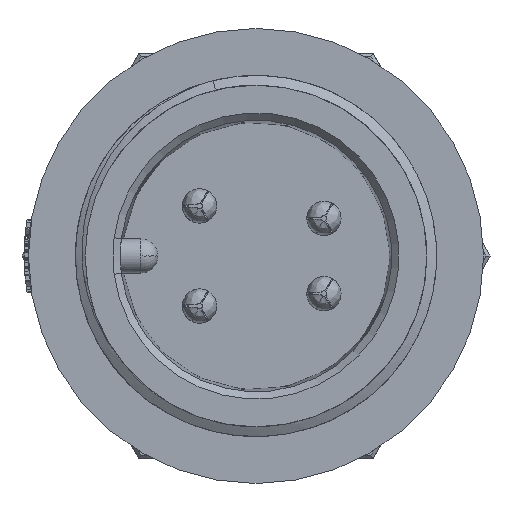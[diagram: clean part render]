
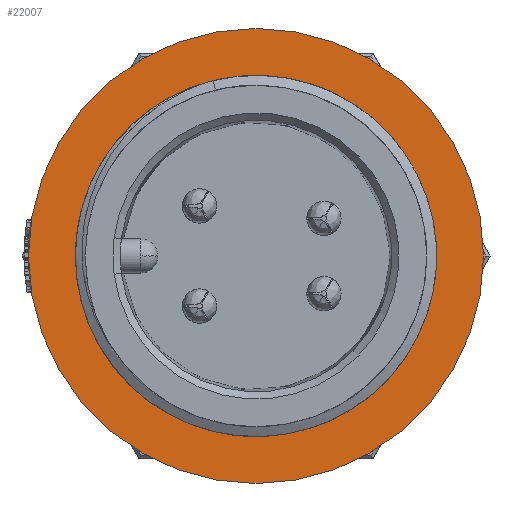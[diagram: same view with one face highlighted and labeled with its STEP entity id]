
A CAD part, left-side view. The second image highlights one B-rep face of the part: STEP entity #22007.
In plain terms, the highlighted planar face has unit normal (-1, 0, 0).
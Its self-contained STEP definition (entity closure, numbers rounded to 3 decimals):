
#713=CARTESIAN_POINT('',(0.,0.,0.));
#714=DIRECTION('',(1.,0.,0.));
#715=DIRECTION('',(0.,0.,-1.));
#716=AXIS2_PLACEMENT_3D('',#713,#714,#715);
#718=CARTESIAN_POINT('',(0.,0.,0.));
#719=DIRECTION('',(-1.,0.,0.));
#720=DIRECTION('',(0.,0.,-1.));
#721=AXIS2_PLACEMENT_3D('',#718,#719,#720);
#723=CARTESIAN_POINT('',(0.,3.011,12.338));
#724=CARTESIAN_POINT('',(0.,3.41,12.229));
#725=CARTESIAN_POINT('',(0.,4.194,11.973));
#726=CARTESIAN_POINT('',(0.,5.327,11.476));
#727=CARTESIAN_POINT('',(0.,6.403,10.872));
#728=CARTESIAN_POINT('',(0.,7.413,10.168));
#729=CARTESIAN_POINT('',(0.,8.348,9.369));
#730=CARTESIAN_POINT('',(0.,9.199,8.486));
#731=CARTESIAN_POINT('',(0.,9.957,7.525));
#732=CARTESIAN_POINT('',(0.,10.616,6.496));
#733=CARTESIAN_POINT('',(0.,11.171,5.41));
#734=CARTESIAN_POINT('',(0.,11.615,4.278));
#735=CARTESIAN_POINT('',(0.,11.945,3.109));
#736=CARTESIAN_POINT('',(0.,12.158,1.916));
#737=CARTESIAN_POINT('',(0.,12.253,0.711));
#738=CARTESIAN_POINT('',(0.,12.229,-0.495));
#739=CARTESIAN_POINT('',(0.,12.087,-1.69));
#740=CARTESIAN_POINT('',(0.,11.829,-2.863));
#741=CARTESIAN_POINT('',(0.,11.457,-4.003));
#742=CARTESIAN_POINT('',(0.,10.976,-5.097));
#743=CARTESIAN_POINT('',(0.,10.389,-6.137));
#744=CARTESIAN_POINT('',(0.,9.934,-6.786));
#745=CARTESIAN_POINT('',(0.,9.69,-7.099));
#747=CARTESIAN_POINT('',(0.,0.,0.));
#748=DIRECTION('',(1.,0.,0.));
#749=DIRECTION('',(0.,-0.591,-0.807));
#750=AXIS2_PLACEMENT_3D('',#747,#748,#749);
#752=CARTESIAN_POINT('',(0.,-7.094,-9.694));
#753=CARTESIAN_POINT('',(0.,-7.422,-9.469));
#754=CARTESIAN_POINT('',(0.,-8.051,-8.988));
#755=CARTESIAN_POINT('',(0.,-8.924,-8.173));
#756=CARTESIAN_POINT('',(0.,-9.713,-7.275));
#757=CARTESIAN_POINT('',(0.,-10.412,-6.302));
#758=CARTESIAN_POINT('',(0.,-11.013,-5.261));
#759=CARTESIAN_POINT('',(0.,-11.509,-4.165));
#760=CARTESIAN_POINT('',(0.,-11.896,-3.022));
#761=CARTESIAN_POINT('',(0.,-12.169,-1.844));
#762=CARTESIAN_POINT('',(0.,-12.326,-0.643));
#763=CARTESIAN_POINT('',(0.,-12.364,0.571));
#764=CARTESIAN_POINT('',(0.,-12.283,1.785));
#765=CARTESIAN_POINT('',(0.,-12.082,2.987));
#766=CARTESIAN_POINT('',(0.,-11.764,4.167));
#767=CARTESIAN_POINT('',(0.,-11.331,5.312));
#768=CARTESIAN_POINT('',(0.,-10.788,6.411));
#769=CARTESIAN_POINT('',(0.,-10.138,7.454));
#770=CARTESIAN_POINT('',(0.,-9.387,8.431));
#771=CARTESIAN_POINT('',(0.,-8.543,9.332));
#772=CARTESIAN_POINT('',(0.,-7.613,10.148));
#773=CARTESIAN_POINT('',(0.,-6.944,10.628));
#774=CARTESIAN_POINT('',(0.,-6.596,10.853));
#776=CARTESIAN_POINT('',(0.,-6.596,10.853));
#777=CARTESIAN_POINT('',(0.,-6.239,11.07));
#778=CARTESIAN_POINT('',(0.,-5.509,11.465));
#779=CARTESIAN_POINT('',(0.,-4.358,11.951));
#780=CARTESIAN_POINT('',(0.,-3.166,12.32));
#781=CARTESIAN_POINT('',(0.,-1.943,12.571));
#782=CARTESIAN_POINT('',(0.,-0.702,12.701));
#783=CARTESIAN_POINT('',(0.,0.546,12.709));
#784=CARTESIAN_POINT('',(0.,1.79,12.594));
#785=CARTESIAN_POINT('',(0.,2.605,12.437));
#786=CARTESIAN_POINT('',(0.,3.011,12.338));
#16693=CARTESIAN_POINT('',(0.,0.,-16.));
#16695=VERTEX_POINT('',#16693);
#16697=CARTESIAN_POINT('',(0.,0.,16.));
#16699=VERTEX_POINT('',#16697);
#17149=VERTEX_POINT('',#723);
#17150=VERTEX_POINT('',#745);
#17151=VERTEX_POINT('',#776);
#17152=VERTEX_POINT('',#752);
#21987=CARTESIAN_POINT('',(0.,0.,0.));
#21988=DIRECTION('',(1.,0.,0.));
#21989=DIRECTION('',(0.,0.,1.));
#21990=AXIS2_PLACEMENT_3D('',#21987,#21988,#21989);
#21991=PLANE('',#21990);
#21993=ORIENTED_EDGE('',*,*,#21992,.T.);
#21995=ORIENTED_EDGE('',*,*,#21994,.F.);
#21996=EDGE_LOOP('',(#21993,#21995));
#21997=FACE_OUTER_BOUND('',#21996,.F.);
#21999=ORIENTED_EDGE('',*,*,#21998,.T.);
#22001=ORIENTED_EDGE('',*,*,#22000,.F.);
#22003=ORIENTED_EDGE('',*,*,#22002,.T.);
#22004=ORIENTED_EDGE('',*,*,#21970,.T.);
#22005=EDGE_LOOP('',(#21999,#22001,#22003,#22004));
#22006=FACE_BOUND('',#22005,.F.);
#22007=ADVANCED_FACE('',(#21997,#22006),#21991,.F.);
#717=CIRCLE('',#716,16.);
#722=CIRCLE('',#721,16.);
#746=B_SPLINE_CURVE_WITH_KNOTS('',3,(#723,#724,#725,#726,#727,#728,#729,#730,
#731,#732,#733,#734,#735,#736,#737,#738,#739,#740,#741,#742,#743,#744,#745),
.UNSPECIFIED.,.F.,.F.,(4,1,1,1,1,1,1,1,1,1,1,1,1,1,1,1,1,1,1,1,4),(0.,0.05,
0.1,0.15,0.2,0.25,0.3,0.35,0.4,0.45,0.5,0.55,0.6,0.65,
0.7,0.75,0.8,0.85,0.9,0.95,1.),.UNSPECIFIED.);
#751=CIRCLE('',#750,12.013);
#775=B_SPLINE_CURVE_WITH_KNOTS('',3,(#752,#753,#754,#755,#756,#757,#758,#759,
#760,#761,#762,#763,#764,#765,#766,#767,#768,#769,#770,#771,#772,#773,#774),
.UNSPECIFIED.,.F.,.F.,(4,1,1,1,1,1,1,1,1,1,1,1,1,1,1,1,1,1,1,1,4),(0.,0.05,
0.1,0.15,0.2,0.25,0.3,0.35,0.4,0.45,0.5,0.55,0.6,0.65,
0.7,0.75,0.8,0.85,0.9,0.95,1.),.UNSPECIFIED.);
#787=B_SPLINE_CURVE_WITH_KNOTS('',3,(#776,#777,#778,#779,#780,#781,#782,#783,
#784,#785,#786),.UNSPECIFIED.,.F.,.F.,(4,1,1,1,1,1,1,1,4),(0.,0.125,0.25,
0.375,0.5,0.625,0.75,0.875,1.),.UNSPECIFIED.);
#21970=EDGE_CURVE('',#17151,#17149,#787,.T.);
#21992=EDGE_CURVE('',#16695,#16699,#717,.T.);
#21994=EDGE_CURVE('',#16695,#16699,#722,.T.);
#21998=EDGE_CURVE('',#17149,#17150,#746,.T.);
#22000=EDGE_CURVE('',#17152,#17150,#751,.T.);
#22002=EDGE_CURVE('',#17152,#17151,#775,.T.);
